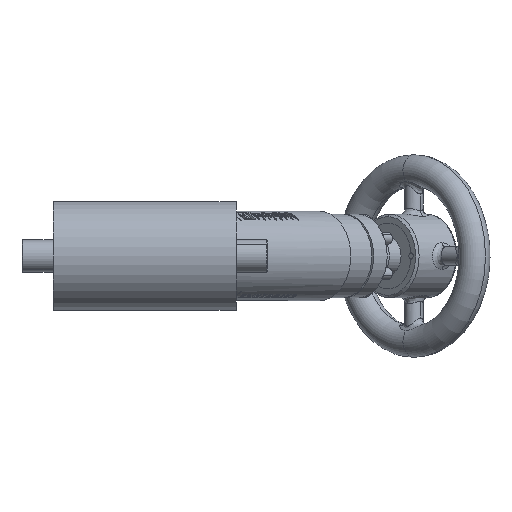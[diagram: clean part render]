
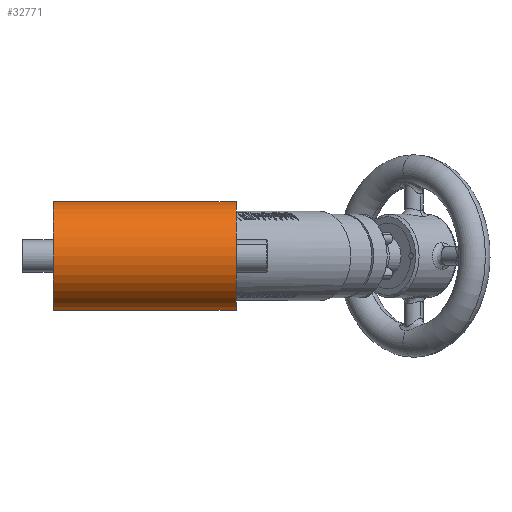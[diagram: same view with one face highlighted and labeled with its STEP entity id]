
A CAD part, front view. The second image highlights one B-rep face of the part: STEP entity #32771.
In plain terms, the highlighted cylindrical face has radius 44.45 mm (diameter 88.9 mm), a partial arc.
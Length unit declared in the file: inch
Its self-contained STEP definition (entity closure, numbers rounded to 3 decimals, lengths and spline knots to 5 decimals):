
#88 = VECTOR ( 'NONE', #76345, 39.37008 ) ;
#1608 = CYLINDRICAL_SURFACE ( 'NONE', #44022, 1.75 ) ;
#3667 = VERTEX_POINT ( 'NONE', #17129 ) ;
#3840 = AXIS2_PLACEMENT_3D ( 'NONE', #49565, #18581, #11456 ) ;
#6456 = CARTESIAN_POINT ( 'NONE',  ( -2.9, 0., 1.75 ) ) ;
#11429 = DIRECTION ( 'NONE',  ( 0., 0., 1. ) ) ;
#11456 = DIRECTION ( 'NONE',  ( 0., 0., 1. ) ) ;
#11806 = DIRECTION ( 'NONE',  ( -1., 0., 0. ) ) ;
#17129 = CARTESIAN_POINT ( 'NONE',  ( 4.565, 0., 1.75 ) ) ;
#17593 = LINE ( 'NONE', #6456, #72155 ) ;
#18581 = DIRECTION ( 'NONE',  ( -1., 0., 0. ) ) ;
#24096 = EDGE_CURVE ( 'NONE', #36663, #65658, #35406, .T. ) ;
#25822 = CARTESIAN_POINT ( 'NONE',  ( -2.9, 0., 0. ) ) ;
#28143 = EDGE_LOOP ( 'NONE', ( #43410, #62437, #33074, #30870 ) ) ;
#30870 = ORIENTED_EDGE ( 'NONE', *, *, #56201, .F. ) ;
#30897 = EDGE_CURVE ( 'NONE', #3667, #71041, #17593, .T. ) ;
#31782 = FACE_OUTER_BOUND ( 'NONE', #28143, .T. ) ;
#32771 = ADVANCED_FACE ( 'NONE', ( #31782 ), #1608, .T. ) ;
#33074 = ORIENTED_EDGE ( 'NONE', *, *, #30897, .T. ) ;
#33931 = DIRECTION ( 'NONE',  ( 0., 0., 1. ) ) ;
#35348 = EDGE_CURVE ( 'NONE', #36663, #3667, #61692, .T. ) ;
#35406 = LINE ( 'NONE', #59628, #88 ) ;
#36663 = VERTEX_POINT ( 'NONE', #50582 ) ;
#36825 = CIRCLE ( 'NONE', #3840, 1.75 ) ;
#39543 = CARTESIAN_POINT ( 'NONE',  ( 4.565, 0., 0. ) ) ;
#43410 = ORIENTED_EDGE ( 'NONE', *, *, #24096, .F. ) ;
#44022 = AXIS2_PLACEMENT_3D ( 'NONE', #25822, #11806, #11429 ) ;
#47765 = AXIS2_PLACEMENT_3D ( 'NONE', #39543, #63739, #33931 ) ;
#47777 = DIRECTION ( 'NONE',  ( -1., 0., 0. ) ) ;
#49565 = CARTESIAN_POINT ( 'NONE',  ( -1.31, 0., 0. ) ) ;
#50582 = CARTESIAN_POINT ( 'NONE',  ( 4.565, 0., -1.75 ) ) ;
#54957 = CARTESIAN_POINT ( 'NONE',  ( -1.31, 0., 1.75 ) ) ;
#56201 = EDGE_CURVE ( 'NONE', #65658, #71041, #36825, .T. ) ;
#58681 = CARTESIAN_POINT ( 'NONE',  ( -1.31, 0., -1.75 ) ) ;
#59628 = CARTESIAN_POINT ( 'NONE',  ( -2.9, 0., -1.75 ) ) ;
#61692 = CIRCLE ( 'NONE', #47765, 1.75 ) ;
#62437 = ORIENTED_EDGE ( 'NONE', *, *, #35348, .T. ) ;
#63739 = DIRECTION ( 'NONE',  ( -1., 0., 0. ) ) ;
#65658 = VERTEX_POINT ( 'NONE', #58681 ) ;
#71041 = VERTEX_POINT ( 'NONE', #54957 ) ;
#72155 = VECTOR ( 'NONE', #47777, 39.37008 ) ;
#76345 = DIRECTION ( 'NONE',  ( -1., 0., 0. ) ) ;
